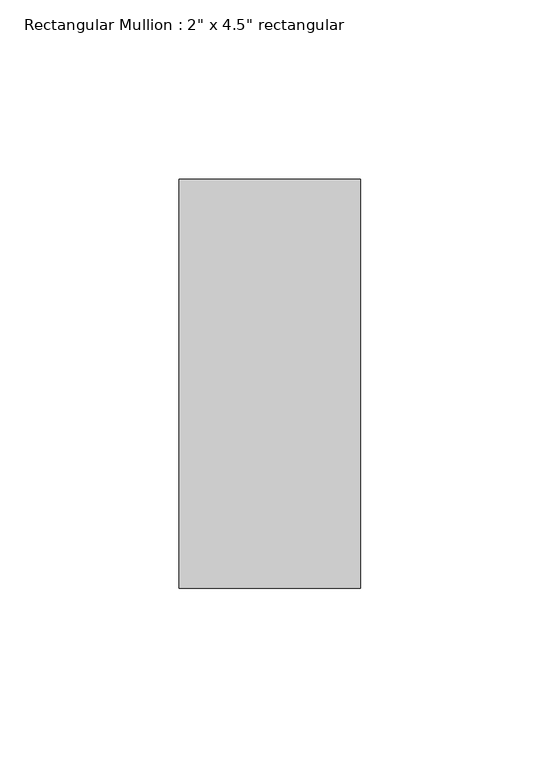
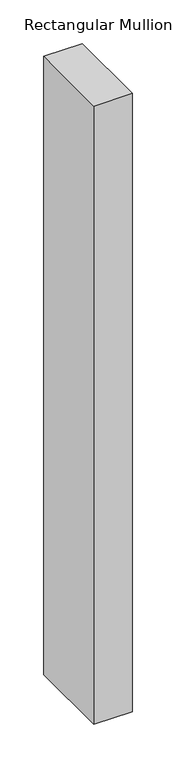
"""IFC4 building model written with IfcOpenShell, lengths in millimetres: member geometry."""

import ifcopenshell
import ifcopenshell.guid

model = None  # the IFC model being written
_history = None  # IfcOwnerHistory: only IFC2X3 demands one
_inside = {}  # id of a spatial element -> (the spatial element, [elements in it])
_under = {}  # id of a project, library or spatial element -> (it, [spatial elements below it])
_declared = {}  # id of a project -> (the project, [libraries it declares])
_typed = {}  # id of a type object -> (the type object, [elements of that type])
_made_of = {}  # id of a material, layer set ... -> (it, [elements and type objects made of it])


def new_model(schema):
    """Start an empty IFC model of exactly this schema.

    Asked for "IFC4X3", IfcOpenShell would pick the latest addendum, in which some entities
    have other attributes; the version numbers below select the first issue.
    IFC2X3 requires an IfcOwnerHistory on every rooted entity: one is made here for all.
    """
    global model, _history
    if schema == "IFC4X3":
        model = ifcopenshell.file(schema_version=(4, 3, 0, 0))
    else:
        model = ifcopenshell.file(schema=schema)
    _inside.clear()
    _under.clear()
    _declared.clear()
    _typed.clear()
    _made_of.clear()
    _history = None
    if model.schema == "IFC2X3":
        org = make("IfcOrganization", Name="unknown")
        user = make(
            "IfcPersonAndOrganization",
            ThePerson=make("IfcPerson", FamilyName="unknown"),
            TheOrganization=org,
        )
        app = make(
            "IfcApplication",
            ApplicationDeveloper=org,
            Version="unknown",
            ApplicationFullName="unknown",
            ApplicationIdentifier="unknown",
        )
        _history = make(
            "IfcOwnerHistory",
            OwningUser=user,
            OwningApplication=app,
            ChangeAction="ADDED",
            CreationDate=0,
        )
    return model


def make(cls, **values):
    """One entity of the class cls with the attributes given. An attribute that is None is left unset."""
    return model.create_entity(
        cls, **{name: value for name, value in values.items() if value is not None}
    )


def rooted(cls, **values):
    """An entity with a GlobalId (a new one), such as an element, a storey or a relation."""
    return make(cls, GlobalId=ifcopenshell.guid.new(), OwnerHistory=_history, **values)


def si_unit(unit_type, name, prefix=None):
    """IfcSIUnit, for example si_unit("LENGTHUNIT", "METRE", prefix="MILLI")."""
    return make("IfcSIUnit", UnitType=unit_type, Prefix=prefix, Name=name)


def assignment(units):
    """IfcUnitAssignment: the units of a project."""
    return None if units is None else make("IfcUnitAssignment", Units=units)


def point(xyz):
    """IfcCartesianPoint."""
    return None if xyz is None else make("IfcCartesianPoint", Coordinates=xyz)


def direction(xyz):
    """IfcDirection."""
    return None if xyz is None else make("IfcDirection", DirectionRatios=xyz)


def frame(location, z_axis=None, x_axis=None):
    """IfcAxis2Placement3D, a coordinate frame: its origin and axes. An axis left out is left unset."""
    return make(
        "IfcAxis2Placement3D",
        Location=point(location),
        Axis=direction(z_axis),
        RefDirection=direction(x_axis),
    )


def origin():
    """The frame at (0, 0, 0) with its axes left unset."""
    return frame((0.0, 0.0, 0.0))


def place(relative_to, where):
    """IfcLocalPlacement: puts the frame where relative to a parent placement (None: the world)."""
    return make(
        "IfcLocalPlacement", PlacementRelTo=relative_to, RelativePlacement=where
    )


def context(
    kind, dimensions, precision=None, world=None, true_north=None, identifier=None
):
    """IfcGeometricRepresentationContext, for example the 3D "Model" context."""
    return make(
        "IfcGeometricRepresentationContext",
        ContextIdentifier=identifier,
        ContextType=kind,
        CoordinateSpaceDimension=dimensions,
        Precision=precision,
        WorldCoordinateSystem=world,
        TrueNorth=true_north,
    )


def project(units=None, contexts=None):
    """IfcProject with its units and contexts."""
    return rooted(
        "IfcProject",
        Name="project",
        RepresentationContexts=contexts,
        UnitsInContext=assignment(units),
    )


def spatial(cls, under=None, at=None, **own):
    """A site, building, storey or space (cls), placed at a placement, below another one or the project."""
    s = rooted(cls, ObjectPlacement=at, **own)
    if under is not None:
        _under.setdefault(under.id(), (under, []))[1].append(s)
    return s


def polyline(points):
    """IfcPolyline through the points."""
    return make("IfcPolyline", Points=[point(p) for p in points])


def outline(outer, holes=None, kind="AREA"):
    """IfcArbitraryClosedProfileDef: a profile drawn as a closed curve; with holes, ...WithVoids."""
    if holes is None:
        return make("IfcArbitraryClosedProfileDef", ProfileType=kind, OuterCurve=outer)
    return make(
        "IfcArbitraryProfileDefWithVoids",
        ProfileType=kind,
        OuterCurve=outer,
        InnerCurves=holes,
    )


def extrude(swept, where, along, depth):
    """IfcExtrudedAreaSolid: the profile swept, set in the frame where, extruded along a direction by depth."""
    return make(
        "IfcExtrudedAreaSolid",
        SweptArea=swept,
        Position=where,
        ExtrudedDirection=direction(along),
        Depth=depth,
    )


def shape(context_of_items, identifier, shape_type, items):
    """IfcShapeRepresentation: the items that make up one representation, for example the "Body"."""
    return make(
        "IfcShapeRepresentation",
        ContextOfItems=context_of_items,
        RepresentationIdentifier=identifier,
        RepresentationType=shape_type,
        Items=items,
    )


def source(mapping_origin, context_of_items, identifier, shape_type, items):
    """IfcRepresentationMap: a shape defined once, which mapped items show again and again."""
    return make(
        "IfcRepresentationMap",
        MappingOrigin=mapping_origin,
        MappedRepresentation=shape(context_of_items, identifier, shape_type, items),
    )


def transform(
    local_origin,
    x_axis=None,
    y_axis=None,
    z_axis=None,
    scale=None,
    scale2=None,
    scale3=None,
    uniform=True,
):
    """IfcCartesianTransformationOperator3D, or its non-uniform kind. x_axis, y_axis, z_axis: its Axis1, 2, 3."""
    if uniform:
        return make(
            "IfcCartesianTransformationOperator3D",
            Axis1=direction(x_axis),
            Axis2=direction(y_axis),
            LocalOrigin=point(local_origin),
            Scale=scale,
            Axis3=direction(z_axis),
        )
    return make(
        "IfcCartesianTransformationOperator3DnonUniform",
        Axis1=direction(x_axis),
        Axis2=direction(y_axis),
        LocalOrigin=point(local_origin),
        Scale=scale,
        Axis3=direction(z_axis),
        Scale2=scale2,
        Scale3=scale3,
    )


def mapped(mapping_source, mapping_target):
    """IfcMappedItem: shows the shape of a source again, moved by a transform."""
    return make(
        "IfcMappedItem", MappingSource=mapping_source, MappingTarget=mapping_target
    )


def made_of(thing, what):
    """Note that an element or type object is made of a material, layer set ...; save() writes the relation."""
    if what is not None:
        _made_of.setdefault(what.id(), (what, []))[1].append(thing)
    return thing


def element(
    cls,
    number,
    at=None,
    inside=None,
    cuts=None,
    type_object=None,
    material=None,
    context=None,
    identifier="Body",
    shape_type=None,
    held_by="IfcProductDefinitionShape",
    body=None,
    shapes=None,
    **own,
):
    """One element of the class cls, such as IfcWall. Its Tag is "e" and its number.

    at: its placement. inside: the storey or other place that contains it. cuts: it is an
    opening in that element (IfcRelVoidsElement). A single representation is given by context,
    identifier, shape_type and body (its items); several are given by shapes. held_by: the class
    of the entity that holds the representations. save() writes the other relations.
    """
    e = rooted(cls, Tag="e%d" % number, ObjectPlacement=at, **own)
    if body is not None:
        shapes = [shape(context, identifier, shape_type, body)]
    if shapes is not None:
        e.Representation = make(held_by, Representations=shapes)
    if inside is not None:
        _inside.setdefault(inside.id(), (inside, []))[1].append(e)
    if cuts is not None:
        rooted(
            "IfcRelVoidsElement", RelatingBuildingElement=cuts, RelatedOpeningElement=e
        )
    if type_object is not None:
        _typed.setdefault(type_object.id(), (type_object, []))[1].append(e)
    return made_of(e, material)


def aggregate(whole, parts):
    """IfcRelAggregates: a whole, such as a stair, and the parts it consists of."""
    return rooted("IfcRelAggregates", RelatingObject=whole, RelatedObjects=parts)


def save(model, path):
    """Write the relations noted so far, then the file.

    IfcRelAggregates (storeys below a building ...), IfcRelContainedInSpatialStructure (elements
    in a storey), IfcRelDefinesByType, IfcRelAssociatesMaterial and IfcRelDeclares: one each for
    every whole, place, type object, material and project.
    """
    for whole, parts in _under.values():
        aggregate(whole, parts)
    for where, things in _inside.values():
        rooted(
            "IfcRelContainedInSpatialStructure",
            RelatedElements=things,
            RelatingStructure=where,
        )
    for kind, things in _typed.values():
        rooted("IfcRelDefinesByType", RelatedObjects=things, RelatingType=kind)
    for what, things in _made_of.values():
        rooted("IfcRelAssociatesMaterial", RelatedObjects=things, RelatingMaterial=what)
    for by, libraries in _declared.values():
        rooted("IfcRelDeclares", RelatingContext=by, RelatedDefinitions=libraries)
    model.write(path)


def member_74c9df78(model_context):
    return source(origin(), model_context, "Body", "SweptSolid", [
        extrude(outline(polyline([(0.0, 57.15), (0.0, -57.15), (-50.8, -57.15), (-50.8, 57.15), (0.0, 57.15)])), frame((0.0, 0.0, -862.7750046), z_axis=(0.0, 0.0, 1.0), x_axis=(1.0, 0.0, 0.0)), (0.0, 0.0, 1.0), 862.7750046),
    ])


if __name__ == "__main__":
    model = new_model("IFC4")
    model_context = context("Model", 3, world=origin())
    ifc_project = project(units=[si_unit("LENGTHUNIT", "METRE", prefix="MILLI")], contexts=[model_context])
    site = spatial("IfcSite", under=ifc_project)
    building = spatial("IfcBuilding", under=site)
    placement = place(None, origin())
    member_shape = member_74c9df78(model_context)
    element("IfcMember", 1, ObjectType="Rectangular Mullion : 2\" x 4.5\" rectangular", at=placement, inside=building, context=model_context, shape_type="MappedRepresentation", body=[
        mapped(member_shape, transform((0.0, 0.0, 0.0), x_axis=(1.0, 0.0, 0.0), y_axis=(0.0, 1.0, 0.0), z_axis=(0.0, 0.0, 1.0))),
    ])
    save(model, "model.ifc")
